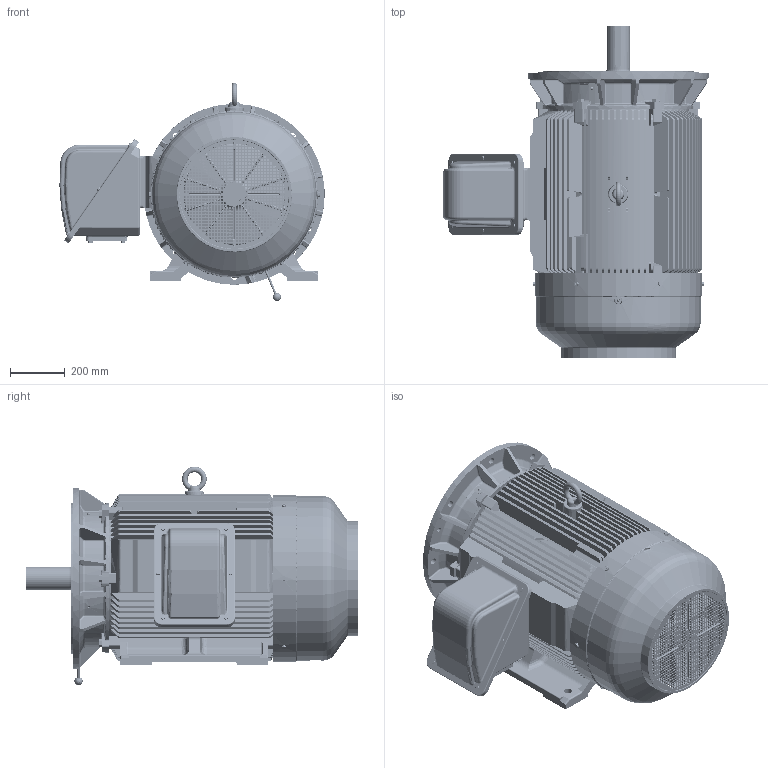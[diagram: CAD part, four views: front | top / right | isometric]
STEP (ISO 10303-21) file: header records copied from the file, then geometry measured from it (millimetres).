
FILE_DESCRIPTION(('CATIA V5 STEP Exchange'),'2;1');
FILE_NAME('C:\Documents and Settings\matthen\桌面\315MC-HV-NEW HIGH FIN.stp','2011-06-17T09:39:58+00:00',('none'),('none'),'CATIA Version 5 Release 19 SP 2 (IN-10)','CATIA V5 STEP AP203','none');
FILE_SCHEMA(('CONFIG_CONTROL_DESIGN'));
Length unit declared in the file: millimetre
Products named in the file (3): 315MC-NEW HIGH FIN; 3A210D002; 3A6001310008
Assembly tree (70 placements, depth 3):
  315MC-NEW HIGH FIN
    #58
    #81
    #2407
    #37290
    #89088
    #171788
    3A210D002
      #178844
      #179947
      #180446
      #180950
      #181140
    #181323
    #189630
    #190733
    #193498
    #195258
    #212927
    #436692  x2
    #437468
    #438130
    3A6001310008
      #444111
      #454891
      #462632
      #463211  x4
      #463785  x4
      #464359  x6
    #464976  x12
    #465520  x8
    #466154  x4
    #466744  x6
Bounding box: 968.62 x 1212 x 797.89 mm (x, y, z)
Volume: 67753690.2 mm3; surface area: 12522775 mm2
Topology: 67 solids, 69 shells, 12700 faces, 35123 edges, 22415 vertices
Faces by surface type: cylinder 4914, plane 4727, bspline 1280, torus 1002, cone 612, sphere 155, revolution 10
Entity records: 468074 total; most frequent: CARTESIAN_POINT 180402, ORIENTED_EDGE 66228, DIRECTION 45991, EDGE_CURVE 33114, VERTEX_POINT 21338, AXIS2_PLACEMENT_3D 20008, VECTOR 16713, LINE 16713
